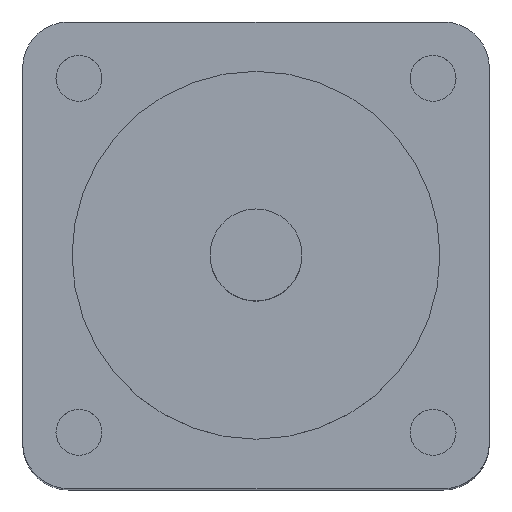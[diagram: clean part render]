
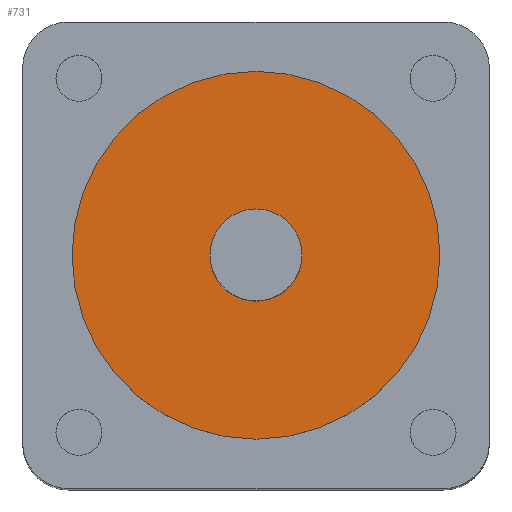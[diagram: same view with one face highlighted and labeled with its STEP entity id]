
A CAD part, top view. The second image highlights one B-rep face of the part: STEP entity #731.
In plain terms, the highlighted planar face has unit normal (0, 0, 1).
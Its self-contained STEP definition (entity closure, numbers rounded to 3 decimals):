
#2 = DIRECTION ( 'NONE',  ( 0., 0., 1. ) ) ;
#4 = DIRECTION ( 'NONE',  ( 1., 0., 0. ) ) ;
#5 = DIRECTION ( 'NONE',  ( 1., 0., 0. ) ) ;
#24 = CARTESIAN_POINT ( 'NONE',  ( -23.833, 6.321, 34.5 ) ) ;
#29 = DIRECTION ( 'NONE',  ( 0., 0., 1. ) ) ;
#142 = ORIENTED_EDGE ( 'NONE', *, *, #757, .F. ) ;
#144 = ORIENTED_EDGE ( 'NONE', *, *, #596, .T. ) ;
#151 = ORIENTED_EDGE ( 'NONE', *, *, #740, .F. ) ;
#157 = ORIENTED_EDGE ( 'NONE', *, *, #754, .T. ) ;
#182 = FACE_OUTER_BOUND ( 'NONE', #332, .T. ) ;
#183 = FACE_BOUND ( 'NONE', #327, .T. ) ;
#240 = VERTEX_POINT ( 'NONE', #694 ) ;
#250 = VERTEX_POINT ( 'NONE', #684 ) ;
#255 = VERTEX_POINT ( 'NONE', #679 ) ;
#265 = VERTEX_POINT ( 'NONE', #773 ) ;
#327 = EDGE_LOOP ( 'NONE', ( #151, #142 ) ) ;
#332 = EDGE_LOOP ( 'NONE', ( #144, #157 ) ) ;
#421 = CARTESIAN_POINT ( 'NONE',  ( -23.833, 6.321, 34.5 ) ) ;
#437 = CARTESIAN_POINT ( 'NONE',  ( -23.833, 6.321, 34.5 ) ) ;
#443 = DIRECTION ( 'NONE',  ( 0., 0., 1. ) ) ;
#462 = DIRECTION ( 'NONE',  ( 1., 0., 0. ) ) ;
#473 = CIRCLE ( 'NONE', #516, 2. ) ;
#490 = AXIS2_PLACEMENT_3D ( 'NONE', #636, #655, #648 ) ;
#516 = AXIS2_PLACEMENT_3D ( 'NONE', #437, #443, #462 ) ;
#528 = CIRCLE ( 'NONE', #538, 8. ) ;
#538 = AXIS2_PLACEMENT_3D ( 'NONE', #784, #774, #779 ) ;
#545 = CIRCLE ( 'NONE', #565, 8. ) ;
#556 = CIRCLE ( 'NONE', #561, 2. ) ;
#561 = AXIS2_PLACEMENT_3D ( 'NONE', #24, #2, #5 ) ;
#565 = AXIS2_PLACEMENT_3D ( 'NONE', #421, #29, #4 ) ;
#596 = EDGE_CURVE ( 'NONE', #265, #240, #528, .T. ) ;
#627 = PLANE ( 'NONE',  #490 ) ;
#636 = CARTESIAN_POINT ( 'NONE',  ( -23.833, 6.321, 34.5 ) ) ;
#648 = DIRECTION ( 'NONE',  ( 1., 0., 0. ) ) ;
#655 = DIRECTION ( 'NONE',  ( 0., 0., 1. ) ) ;
#679 = CARTESIAN_POINT ( 'NONE',  ( -21.833, 6.321, 34.5 ) ) ;
#684 = CARTESIAN_POINT ( 'NONE',  ( -25.833, 6.321, 34.5 ) ) ;
#694 = CARTESIAN_POINT ( 'NONE',  ( -15.833, 6.321, 34.5 ) ) ;
#731 = ADVANCED_FACE ( 'NONE', ( #182, #183 ), #627, .T. ) ;
#740 = EDGE_CURVE ( 'NONE', #250, #255, #473, .T. ) ;
#754 = EDGE_CURVE ( 'NONE', #240, #265, #545, .T. ) ;
#757 = EDGE_CURVE ( 'NONE', #255, #250, #556, .T. ) ;
#773 = CARTESIAN_POINT ( 'NONE',  ( -31.833, 6.321, 34.5 ) ) ;
#774 = DIRECTION ( 'NONE',  ( 0., 0., 1. ) ) ;
#779 = DIRECTION ( 'NONE',  ( 1., 0., 0. ) ) ;
#784 = CARTESIAN_POINT ( 'NONE',  ( -23.833, 6.321, 34.5 ) ) ;
